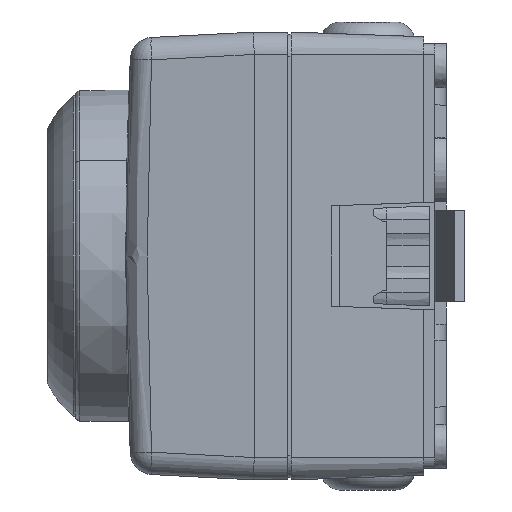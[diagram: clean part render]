
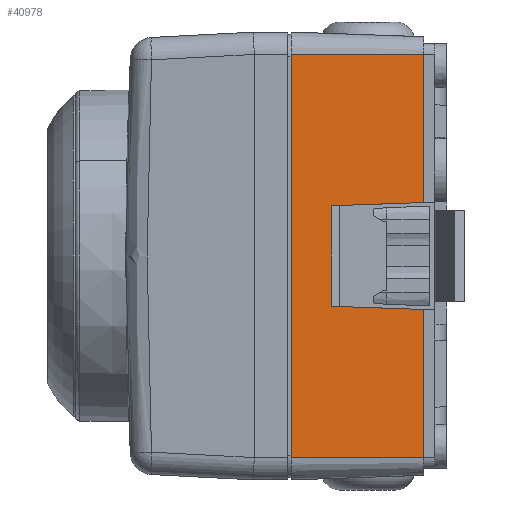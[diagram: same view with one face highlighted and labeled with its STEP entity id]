
A CAD part, left-side view. The second image highlights one B-rep face of the part: STEP entity #40978.
In plain terms, the highlighted planar face has unit normal (-0.999, -0.035, 0).
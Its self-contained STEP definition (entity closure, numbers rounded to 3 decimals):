
#1905=DIRECTION('',(0.,0.,1.));
#1906=VECTOR('',#1905,36.);
#1907=CARTESIAN_POINT('',(-54.3,-2.65,-18.));
#1908=LINE('',#1907,#1906);
#10711=DIRECTION('',(0.035,-0.999,0.035));
#10712=VECTOR('',#10711,8.23);
#10713=CARTESIAN_POINT('',(-54.173,-6.28,
4.489));
#10714=LINE('',#10713,#10712);
#10731=DIRECTION('',(-0.035,0.999,0.035));
#10732=VECTOR('',#10731,8.23);
#10733=CARTESIAN_POINT('',(-53.886,-14.5,-4.776));
#10734=LINE('',#10733,#10732);
#14587=DIRECTION('',(0.,0.,1.));
#14588=VECTOR('',#14587,8.979);
#14589=CARTESIAN_POINT('',(-54.173,-6.28,
-4.489));
#14590=LINE('',#14589,#14588);
#14591=DIRECTION('',(0.,0.,1.));
#14592=VECTOR('',#14591,13.224);
#14593=CARTESIAN_POINT('',(-53.886,-14.5,-18.));
#14594=LINE('',#14593,#14592);
#14595=DIRECTION('',(0.035,-0.999,0.));
#14596=VECTOR('',#14595,11.857);
#14597=CARTESIAN_POINT('',(-54.3,-2.65,-18.));
#14598=LINE('',#14597,#14596);
#14599=DIRECTION('',(0.035,-0.999,0.));
#14600=VECTOR('',#14599,11.857);
#14601=CARTESIAN_POINT('',(-54.3,-2.65,18.));
#14602=LINE('',#14601,#14600);
#14603=DIRECTION('',(0.,0.,1.));
#14604=VECTOR('',#14603,13.224);
#14605=CARTESIAN_POINT('',(-53.886,-14.5,4.776));
#14606=LINE('',#14605,#14604);
#16678=CARTESIAN_POINT('',(-53.886,-14.5,-4.776));
#16679=VERTEX_POINT('',#16678);
#16708=CARTESIAN_POINT('',(-54.3,-2.65,-18.));
#16709=VERTEX_POINT('',#16708);
#16710=CARTESIAN_POINT('',(-53.886,-14.5,-18.));
#16711=VERTEX_POINT('',#16710);
#16712=CARTESIAN_POINT('',(-54.3,-2.65,18.));
#16713=VERTEX_POINT('',#16712);
#16714=CARTESIAN_POINT('',(-53.886,-14.5,18.));
#16715=VERTEX_POINT('',#16714);
#16848=CARTESIAN_POINT('',(-54.173,-6.28,
-4.489));
#16849=VERTEX_POINT('',#16848);
#17593=CARTESIAN_POINT('',(-54.173,-6.28,
4.489));
#17594=VERTEX_POINT('',#17593);
#17595=CARTESIAN_POINT('',(-53.886,-14.5,4.776));
#17596=VERTEX_POINT('',#17595);
#40961=CARTESIAN_POINT('',(-54.3,-2.65,-18.));
#40962=DIRECTION('',(-0.999,-0.035,0.));
#40963=DIRECTION('',(0.,0.,1.));
#40964=AXIS2_PLACEMENT_3D('',#40961,#40962,#40963);
#40965=PLANE('',#40964);
#40966=ORIENTED_EDGE('',*,*,#33135,.F.);
#40967=ORIENTED_EDGE('',*,*,#33201,.F.);
#40968=ORIENTED_EDGE('',*,*,#33225,.F.);
#40969=ORIENTED_EDGE('',*,*,#33094,.F.);
#40971=ORIENTED_EDGE('',*,*,#40970,.F.);
#40972=ORIENTED_EDGE('',*,*,#21616,.T.);
#40974=ORIENTED_EDGE('',*,*,#40973,.T.);
#40975=ORIENTED_EDGE('',*,*,#33080,.F.);
#40976=EDGE_LOOP('',(#40966,#40967,#40968,#40969,#40971,#40972,#40974,#40975));
#40977=FACE_OUTER_BOUND('',#40976,.F.);
#40978=ADVANCED_FACE('',(#40977),#40965,.T.);
#21616=EDGE_CURVE('',#16709,#16713,#1908,.T.);
#33080=EDGE_CURVE('',#17596,#16715,#14606,.T.);
#33094=EDGE_CURVE('',#16711,#16679,#14594,.T.);
#33135=EDGE_CURVE('',#17594,#17596,#10714,.T.);
#33201=EDGE_CURVE('',#16849,#17594,#14590,.T.);
#33225=EDGE_CURVE('',#16679,#16849,#10734,.T.);
#40970=EDGE_CURVE('',#16709,#16711,#14598,.T.);
#40973=EDGE_CURVE('',#16713,#16715,#14602,.T.);
